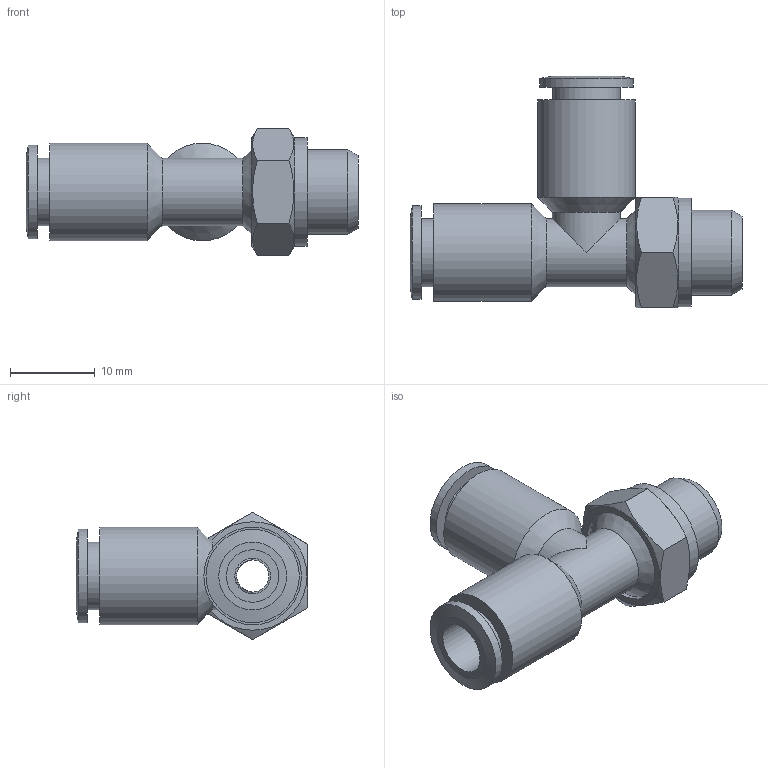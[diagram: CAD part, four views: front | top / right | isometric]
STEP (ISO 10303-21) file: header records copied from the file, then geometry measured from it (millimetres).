
FILE_DESCRIPTION((''),'2;1');
FILE_NAME('C:\Documents and Settings\rivolro1\Documenti\copia di Raccordi\PLASTICA\T21XXXX\T210618.stp','2007-11-02T08:39:28',('Rivolro1'),(''),'Autodesk Inventor 2008','Autodesk Inventor 2008','');
FILE_SCHEMA(('AUTOMOTIVE_DESIGN { 1 0 10303 214 1 1 1 1 }'));
Length unit declared in the file: millimetre
Products named in the file (1): T210618
Bounding box: 39.15 x 27.3 x 15.01 mm (x, y, z)
Volume: 3823.5 mm3; surface area: 3419.7 mm2
Topology: 1 solids, 1 shells, 51 faces, 102 edges, 65 vertices
Faces by surface type: cylinder 19, plane 19, cone 8, bspline 5
Full cylindrical faces by diameter (mm): 3.8 x1, 4.2 x2, 8 x4, 10 x1, 11 x3, 11.2 x1, 11.5 x2, 12.8 x1
Entity records: 1411 total; most frequent: CARTESIAN_POINT 407, DIRECTION 192, ORIENTED_EDGE 142, AXIS2_PLACEMENT_3D 91, EDGE_LOOP 90, EDGE_CURVE 71, VERTEX_POINT 59, FACE_OUTER_BOUND 51
